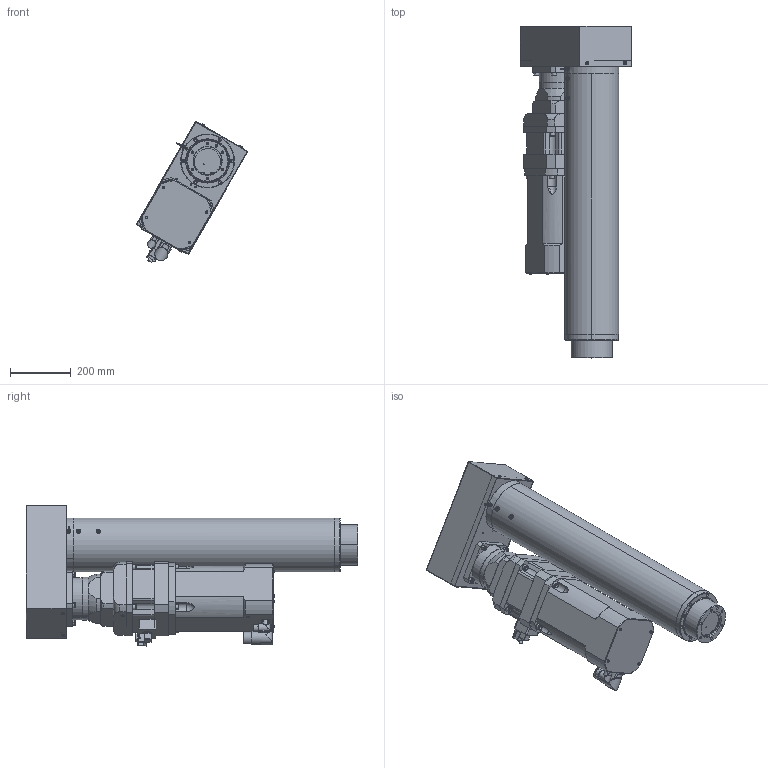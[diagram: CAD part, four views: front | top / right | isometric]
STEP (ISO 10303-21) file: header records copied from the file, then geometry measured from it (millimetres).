
FILE_DESCRIPTION (( 'STEP AP214' ), '1' );
FILE_NAME ('RLWPK100D-055-020S.STEP', '2023-04-06T06:05:01', ( '' ), ( '' ), 'SwSTEP 2.0', 'SolidWorks 2021', '' );
FILE_SCHEMA (( 'AUTOMOTIVE_DESIGN' ));
Length unit declared in the file: millimetre
Products named in the file (1): RLWPK100D-055-020S
Bounding box: 368.77 x 1095.5 x 466.21 mm (x, y, z)
Volume: 37947400.7 mm3; surface area: 3159559.6 mm2
Topology: 36 solids, 36 shells, 1551 faces, 3699 edges, 2234 vertices
Faces by surface type: plane 593, cylinder 592, cone 238, torus 96, bspline 30, sphere 2
Entity records: 63560 total; most frequent: CARTESIAN_POINT 9974, DIRECTION 8007, ORIENTED_EDGE 7086, EDGE_CURVE 3543, AXIS2_PLACEMENT_3D 3099, VERTEX_POINT 2234, EDGE_LOOP 1827, VECTOR 1809
